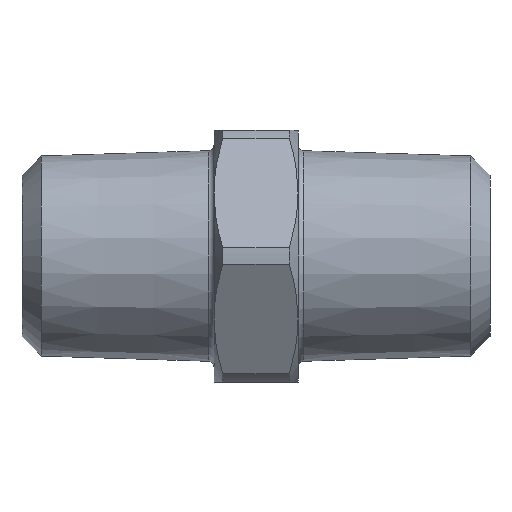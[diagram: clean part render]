
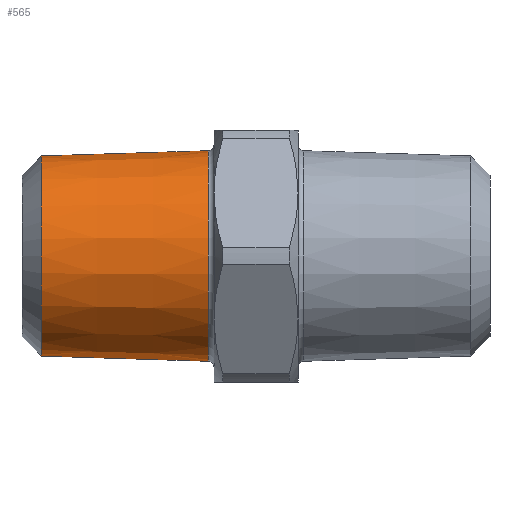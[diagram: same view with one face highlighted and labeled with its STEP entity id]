
A CAD part, front view. The second image highlights one B-rep face of the part: STEP entity #565.
In plain terms, the highlighted conical face has half-angle 1.79 degrees and reference radius 8.337 mm.
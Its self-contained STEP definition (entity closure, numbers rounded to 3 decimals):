
#31 = DIRECTION ( 'NONE',  ( 0., 0., -1. ) ) ;
#33 = DIRECTION ( 'NONE',  ( 1., 0., 0. ) ) ;
#67 = CARTESIAN_POINT ( 'NONE',  ( -37.4, 0., 0. ) ) ;
#91 = DIRECTION ( 'NONE',  ( 1., 0., -0.031 ) ) ;
#142 = CARTESIAN_POINT ( 'NONE',  ( -37.4, 0., 0. ) ) ;
#143 = DIRECTION ( 'NONE',  ( 1., 0., 0. ) ) ;
#182 = DIRECTION ( 'NONE',  ( 0., 0., -1. ) ) ;
#190 = CARTESIAN_POINT ( 'NONE',  ( -37.4, 0., -8.337 ) ) ;
#227 = DIRECTION ( 'NONE',  ( 1., 0., 0.031 ) ) ;
#300 = CARTESIAN_POINT ( 'NONE',  ( -37.4, 0., 8.337 ) ) ;
#315 = LINE ( 'NONE', #190, #325 ) ;
#324 = VECTOR ( 'NONE', #227, 1000. ) ;
#325 = VECTOR ( 'NONE', #91, 1000. ) ;
#331 = LINE ( 'NONE', #300, #324 ) ;
#350 = CONICAL_SURFACE ( 'NONE', #438, 8.337, 0.031 ) ;
#403 = AXIS2_PLACEMENT_3D ( 'NONE', #142, #143, #182 ) ;
#438 = AXIS2_PLACEMENT_3D ( 'NONE', #67, #33, #31 ) ;
#484 = AXIS2_PLACEMENT_3D ( 'NONE', #687, #686, #674 ) ;
#503 = EDGE_CURVE ( 'NONE', #1231, #1229, #1304, .T. ) ;
#542 = EDGE_CURVE ( 'NONE', #1245, #1229, #331, .T. ) ;
#546 = EDGE_CURVE ( 'NONE', #1250, #1231, #315, .T. ) ;
#565 = ADVANCED_FACE ( 'NONE', ( #1333 ), #350, .T. ) ;
#600 = EDGE_CURVE ( 'NONE', #1245, #1250, #784, .T. ) ;
#674 = DIRECTION ( 'NONE',  ( 0., 0., -1. ) ) ;
#686 = DIRECTION ( 'NONE',  ( -1., 0., 0. ) ) ;
#687 = CARTESIAN_POINT ( 'NONE',  ( -23.484, 0., 0. ) ) ;
#784 = CIRCLE ( 'NONE', #403, 8.337 ) ;
#969 = ORIENTED_EDGE ( 'NONE', *, *, #546, .T. ) ;
#973 = ORIENTED_EDGE ( 'NONE', *, *, #542, .F. ) ;
#974 = ORIENTED_EDGE ( 'NONE', *, *, #600, .T. ) ;
#976 = ORIENTED_EDGE ( 'NONE', *, *, #503, .T. ) ;
#1171 = EDGE_LOOP ( 'NONE', ( #973, #974, #969, #976 ) ) ;
#1229 = VERTEX_POINT ( 'NONE', #1422 ) ;
#1231 = VERTEX_POINT ( 'NONE', #1420 ) ;
#1245 = VERTEX_POINT ( 'NONE', #1406 ) ;
#1250 = VERTEX_POINT ( 'NONE', #1401 ) ;
#1304 = CIRCLE ( 'NONE', #484, 8.772 ) ;
#1333 = FACE_OUTER_BOUND ( 'NONE', #1171, .T. ) ;
#1401 = CARTESIAN_POINT ( 'NONE',  ( -37.4, 0., -8.337 ) ) ;
#1406 = CARTESIAN_POINT ( 'NONE',  ( -37.4, 0., 8.337 ) ) ;
#1420 = CARTESIAN_POINT ( 'NONE',  ( -23.484, 0., -8.772 ) ) ;
#1422 = CARTESIAN_POINT ( 'NONE',  ( -23.484, 0., 8.772 ) ) ;
